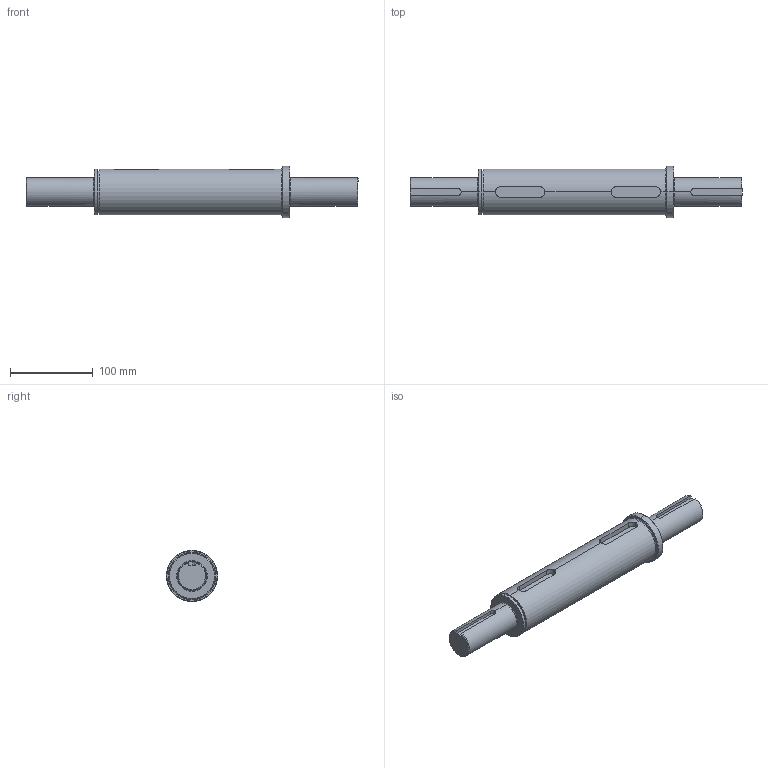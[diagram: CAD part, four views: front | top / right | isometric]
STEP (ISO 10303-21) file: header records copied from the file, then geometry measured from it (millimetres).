
FILE_DESCRIPTION (( 'STEP AP203' ), '1' );
FILE_NAME ('SSHdR325-OPS-DS-1.375.STEP', '2023-01-07T03:43:32', ( '' ), ( '' ), 'SwSTEP 2.0', 'SolidWorks 2012', '' );
FILE_SCHEMA (( 'CONFIG_CONTROL_DESIGN' ));
Length unit declared in the file: millimetre
Products named in the file (1): SSHdR325-OPS-DS-1.375
Bounding box: 402 x 62 x 62 mm (x, y, z)
Volume: 723005.2 mm3; surface area: 68489.5 mm2
Topology: 1 solids, 1 shells, 55 faces, 128 edges, 80 vertices
Faces by surface type: cylinder 21, plane 19, cone 9, torus 6
Entity records: 1857 total; most frequent: CARTESIAN_POINT 508, DIRECTION 278, ORIENTED_EDGE 256, EDGE_CURVE 128, AXIS2_PLACEMENT_3D 110, VERTEX_POINT 80, EDGE_LOOP 60, LINE 58
